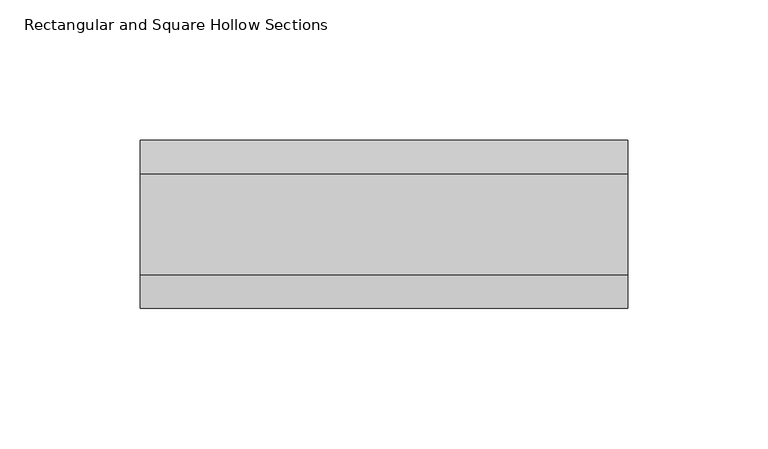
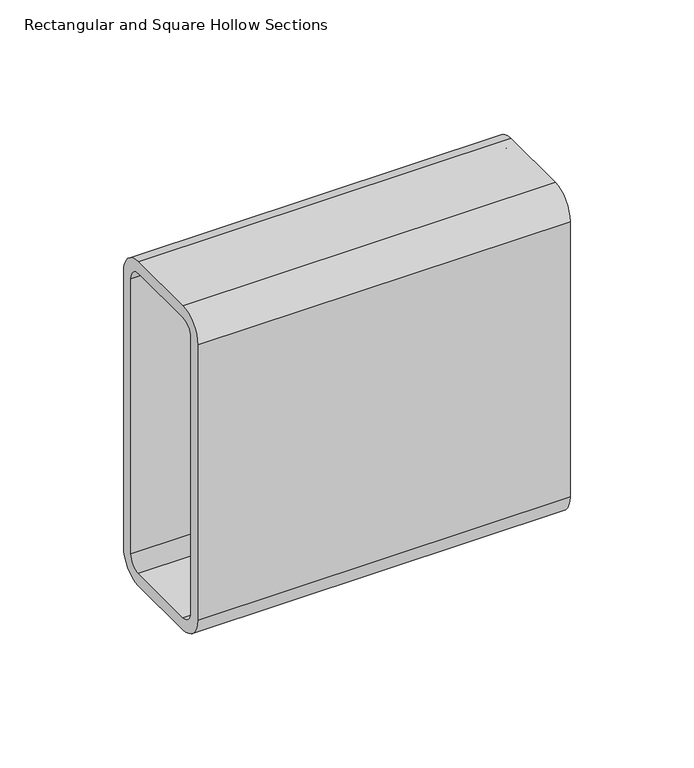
"""IFC4 building model written with IfcOpenShell, lengths in millimetres: beam geometry, Rectangular and Square Hollow Sections : TREC160x60x6."""

from ifc_helpers import new_model, si_unit, point, frame, frame_2d, origin, place, context, project, spatial, polyline, circle_curve, trimmed, segment, composite_curve, outline, extrude, source, transform, mapped, element, save


def rectangular_and_square_hollow_sections_f138f567(model_context):
    return source(origin(), model_context, "Body", "SweptSolid", [
        extrude(outline(composite_curve([segment(polyline([(30.0, 68.0), (30.0, -68.0)]), True, "CONTINUOUS"), segment(trimmed(circle_curve(frame_2d((18.0, -68.0)), 12.0), [point((30.0, -68.0))], [point((18.0, -80.0))], False, "CARTESIAN"), True, "CONTINUOUS"), segment(polyline([(18.0, -80.0), (-18.0, -80.0)]), True, "CONTINUOUS"), segment(trimmed(circle_curve(frame_2d((-18.0, -68.0)), 12.0), [point((-18.0, -80.0))], [point((-30.0, -68.0))], False, "CARTESIAN"), True, "CONTINUOUS"), segment(polyline([(-30.0, -68.0), (-30.0, 68.0)]), True, "CONTINUOUS"), segment(trimmed(circle_curve(frame_2d((-18.0, 68.0)), 12.0), [point((-30.0, 68.0))], [point((-18.0, 80.0))], False, "CARTESIAN"), True, "CONTINUOUS"), segment(polyline([(-18.0, 80.0), (18.0, 80.0)]), True, "CONTINUOUS"), segment(trimmed(circle_curve(frame_2d((18.0, 68.0)), 12.0), [point((18.0, 80.0))], [point((30.0, 68.0))], False, "CARTESIAN"), True, "CONTINUOUS")], self_intersect=False), holes=[composite_curve([segment(trimmed(circle_curve(frame_2d((-18.0, 68.0)), 6.0), [point((-18.0, 74.0))], [point((-24.0, 68.0))], True, "CARTESIAN"), True, "CONTINUOUS"), segment(polyline([(-24.0, 68.0), (-24.0, -68.0)]), True, "CONTINUOUS"), segment(trimmed(circle_curve(frame_2d((-18.0, -68.0)), 6.0), [point((-24.0, -68.0))], [point((-18.0, -74.0))], True, "CARTESIAN"), True, "CONTINUOUS"), segment(polyline([(-18.0, -74.0), (18.0, -74.0)]), True, "CONTINUOUS"), segment(trimmed(circle_curve(frame_2d((18.0, -68.0)), 6.0), [point((18.0, -74.0))], [point((24.0, -68.0))], True, "CARTESIAN"), True, "CONTINUOUS"), segment(polyline([(24.0, -68.0), (24.0, 68.0)]), True, "CONTINUOUS"), segment(trimmed(circle_curve(frame_2d((18.0, 68.0)), 6.0), [point((24.0, 68.0))], [point((18.0, 74.0))], True, "CARTESIAN"), True, "CONTINUOUS"), segment(polyline([(18.0, 74.0), (-18.0, 74.0)]), True, "CONTINUOUS")], self_intersect=False)]), frame((-93.5, 0.0, 0.0), z_axis=(1.0, 0.0, 0.0), x_axis=(0.0, 1.0, 0.0)), (0.0, 0.0, 1.0), 174.0),
    ])


if __name__ == "__main__":
    model = new_model("IFC4")
    model_context = context("Model", 3, world=origin())
    ifc_project = project(units=[si_unit("LENGTHUNIT", "METRE", prefix="MILLI")], contexts=[model_context])
    site = spatial("IfcSite", under=ifc_project)
    building = spatial("IfcBuilding", under=site)
    placement = place(None, origin())
    rectangular_and_square_hollow_sections_shape = rectangular_and_square_hollow_sections_f138f567(model_context)
    element("IfcBeam", 1, ObjectType="Rectangular and Square Hollow Sections : TREC160x60x6", at=placement, inside=building, context=model_context, shape_type="MappedRepresentation", body=[
        mapped(rectangular_and_square_hollow_sections_shape, transform((0.0, 0.0, 0.0), x_axis=(1.0, 0.0, 0.0), y_axis=(0.0, 1.0, 0.0), z_axis=(0.0, 0.0, 1.0))),
    ])
    save(model, "model.ifc")
